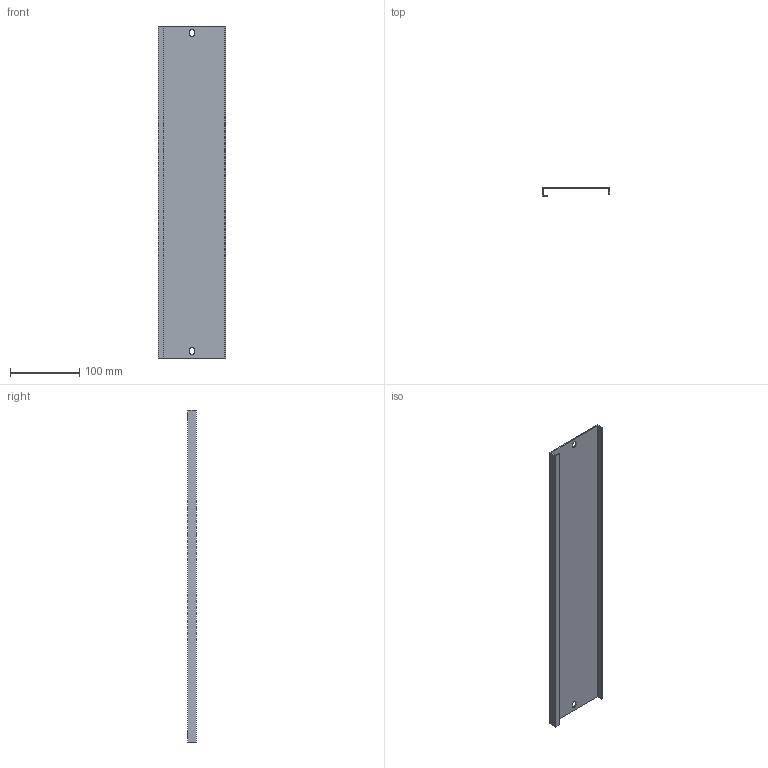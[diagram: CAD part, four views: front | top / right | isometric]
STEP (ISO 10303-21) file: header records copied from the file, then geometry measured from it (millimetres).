
FILE_DESCRIPTION (( 'STEP AP214' ), '1' );
FILE_NAME ('FO-00-PVS-010-060 Ïëàñòðîí ãëóõîé âíóòðåííèé 100õ600.STEP', '2025-08-26T10:38:49', ( '' ), ( '' ), 'SwSTEP 2.0', 'SolidWorks 2023', '' );
FILE_SCHEMA (( 'AUTOMOTIVE_DESIGN' ));
Length unit declared in the file: millimetre
Products named in the file (1): FO-00-PVS-010-060 Пластрон глухой внутренний 100х600
Bounding box: 98 x 12.5 x 479 mm (x, y, z)
Volume: 88915.5 mm3; surface area: 120447 mm2
Topology: 1 solids, 1 shells, 32 faces, 90 edges, 60 vertices
Faces by surface type: plane 26, cylinder 6
Entity records: 1057 total; most frequent: CARTESIAN_POINT 183, ORIENTED_EDGE 180, DIRECTION 168, EDGE_CURVE 90, VECTOR 78, LINE 78, VERTEX_POINT 60, AXIS2_PLACEMENT_3D 45
